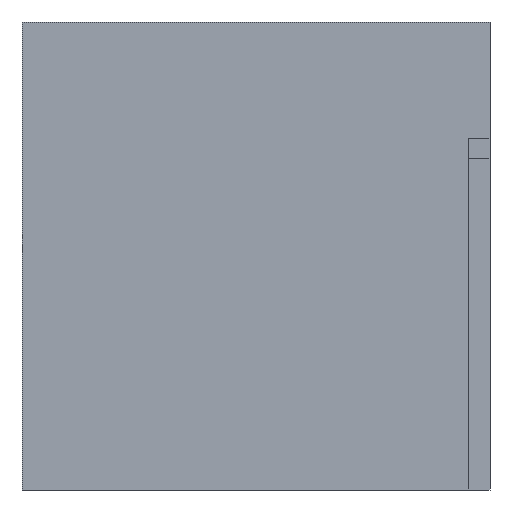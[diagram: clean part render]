
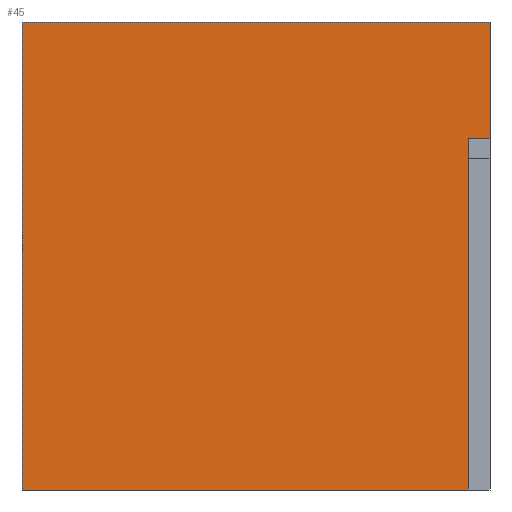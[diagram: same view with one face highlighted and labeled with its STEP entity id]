
A CAD part, left-side view. The second image highlights one B-rep face of the part: STEP entity #45.
In plain terms, the highlighted planar face has unit normal (-1, 0, 0).
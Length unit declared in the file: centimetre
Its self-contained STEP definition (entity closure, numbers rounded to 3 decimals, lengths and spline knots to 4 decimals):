
#9 = CARTESIAN_POINT ( 'NONE',  ( 0., 0., 1000. ) ) ;
#20 = LINE ( 'NONE', #176, #260 ) ;
#26 = ORIENTED_EDGE ( 'NONE', *, *, #29, .F. ) ;
#29 = EDGE_CURVE ( 'NONE', #269, #57, #55, .T. ) ;
#45 = ADVANCED_FACE ( 'NONE', ( #332 ), #321, .F. ) ;
#49 = DIRECTION ( 'NONE',  ( 0., 0., -1. ) ) ;
#55 = LINE ( 'NONE', #90, #117 ) ;
#57 = VERTEX_POINT ( 'NONE', #439 ) ;
#90 = CARTESIAN_POINT ( 'NONE',  ( 0., 0., 750.7476 ) ) ;
#100 = ORIENTED_EDGE ( 'NONE', *, *, #142, .T. ) ;
#107 = CARTESIAN_POINT ( 'NONE',  ( 0., 1000., 0. ) ) ;
#117 = VECTOR ( 'NONE', #245, 100. ) ;
#121 = CARTESIAN_POINT ( 'NONE',  ( 0., 0., 1000. ) ) ;
#127 = VECTOR ( 'NONE', #192, 100. ) ;
#142 = EDGE_CURVE ( 'NONE', #443, #339, #218, .T. ) ;
#143 = VERTEX_POINT ( 'NONE', #410 ) ;
#147 = EDGE_CURVE ( 'NONE', #143, #443, #454, .T. ) ;
#159 = LINE ( 'NONE', #466, #127 ) ;
#163 = CARTESIAN_POINT ( 'NONE',  ( 0., 1000., 1000. ) ) ;
#176 = CARTESIAN_POINT ( 'NONE',  ( 0., 46.0204, 750.7476 ) ) ;
#181 = DIRECTION ( 'NONE',  ( 0., -1., 0. ) ) ;
#192 = DIRECTION ( 'NONE',  ( 0., -1., 0. ) ) ;
#201 = DIRECTION ( 'NONE',  ( 1., 0., 0. ) ) ;
#202 = VECTOR ( 'NONE', #456, 100. ) ;
#218 = LINE ( 'NONE', #107, #280 ) ;
#233 = EDGE_CURVE ( 'NONE', #143, #324, #159, .T. ) ;
#234 = VECTOR ( 'NONE', #462, 100. ) ;
#245 = DIRECTION ( 'NONE',  ( 0., 1., 0. ) ) ;
#260 = VECTOR ( 'NONE', #334, 100. ) ;
#269 = VERTEX_POINT ( 'NONE', #308 ) ;
#280 = VECTOR ( 'NONE', #181, 100. ) ;
#288 = CARTESIAN_POINT ( 'NONE',  ( 0., 1000., 0. ) ) ;
#297 = ORIENTED_EDGE ( 'NONE', *, *, #418, .F. ) ;
#308 = CARTESIAN_POINT ( 'NONE',  ( 0., 0., 750.7476 ) ) ;
#318 = ORIENTED_EDGE ( 'NONE', *, *, #233, .F. ) ;
#321 = PLANE ( 'NONE',  #407 ) ;
#324 = VERTEX_POINT ( 'NONE', #121 ) ;
#332 = FACE_OUTER_BOUND ( 'NONE', #490, .T. ) ;
#334 = DIRECTION ( 'NONE',  ( 0., 0., -1. ) ) ;
#339 = VERTEX_POINT ( 'NONE', #356 ) ;
#343 = EDGE_CURVE ( 'NONE', #324, #269, #389, .T. ) ;
#356 = CARTESIAN_POINT ( 'NONE',  ( 0., 46.0204, 0. ) ) ;
#367 = ORIENTED_EDGE ( 'NONE', *, *, #343, .F. ) ;
#389 = LINE ( 'NONE', #9, #234 ) ;
#407 = AXIS2_PLACEMENT_3D ( 'NONE', #163, #201, #49 ) ;
#410 = CARTESIAN_POINT ( 'NONE',  ( 0., 1000., 1000. ) ) ;
#418 = EDGE_CURVE ( 'NONE', #57, #339, #20, .T. ) ;
#439 = CARTESIAN_POINT ( 'NONE',  ( 0., 46.0204, 750.7476 ) ) ;
#443 = VERTEX_POINT ( 'NONE', #288 ) ;
#450 = CARTESIAN_POINT ( 'NONE',  ( 0., 1000., 1000. ) ) ;
#454 = LINE ( 'NONE', #450, #202 ) ;
#456 = DIRECTION ( 'NONE',  ( 0., 0., -1. ) ) ;
#462 = DIRECTION ( 'NONE',  ( 0., 0., -1. ) ) ;
#466 = CARTESIAN_POINT ( 'NONE',  ( 0., 1000., 1000. ) ) ;
#474 = ORIENTED_EDGE ( 'NONE', *, *, #147, .T. ) ;
#490 = EDGE_LOOP ( 'NONE', ( #100, #297, #26, #367, #318, #474 ) ) ;
